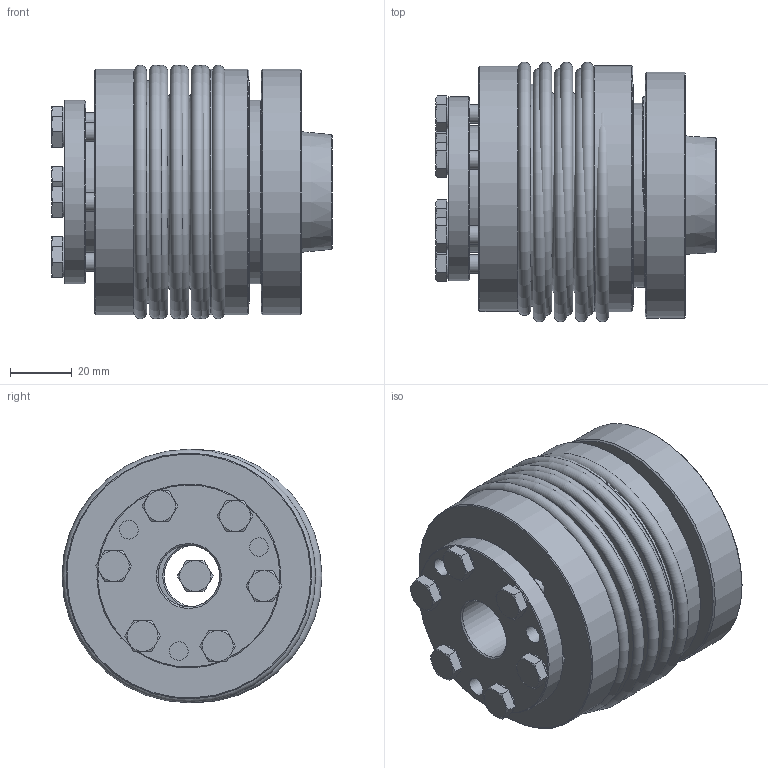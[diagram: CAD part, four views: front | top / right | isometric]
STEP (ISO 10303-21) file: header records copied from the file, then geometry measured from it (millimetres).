
FILE_DESCRIPTION( ( 'Unknown' ), '1' );
FILE_NAME( 'C:/Dokumente und Einstellungen/Sven/Desktop/homepage/cad - homepage/KB5/KB5-80-78.stp', 'Unknown', ( 'Unknown' ), ( 'Unknown' ), 'XStep 1.0', 'Unknown', ' ' );
FILE_SCHEMA( ( 'automotive_design' ) );
Length unit declared in the file: millimetre
Products named in the file (5): Assem1; KB80-150_Standard_1; Hex Screw GradeC_ISO_ISO 4018 - M6 x 25-WN_1; BA80-150_Standard_1; BK80-150_Standard_0
Bounding box: 90.79 x 84.04 x 82 mm (x, y, z)
Volume: 315995.2 mm3; surface area: 185553.8 mm2
Topology: 21 solids, 21 shells, 501 faces, 1034 edges, 626 vertices
Faces by surface type: plane 249, cone 127, cylinder 94, torus 31
Full cylindrical faces by diameter (mm): 6 x40, 6.6 x18, 10 x13, 20 x3, 41 x3, 58 x3, 59.5 x3, 70.7 x4, 71.9 x4, 79.5 x3
Entity records: 2692 total; most frequent: DIRECTION 464, CARTESIAN_POINT 407, ORIENTED_EDGE 272, AXIS2_PLACEMENT_3D 223, EDGE_LOOP 208, FACE_OUTER_BOUND 140, EDGE_CURVE 136, VERTEX_POINT 118
